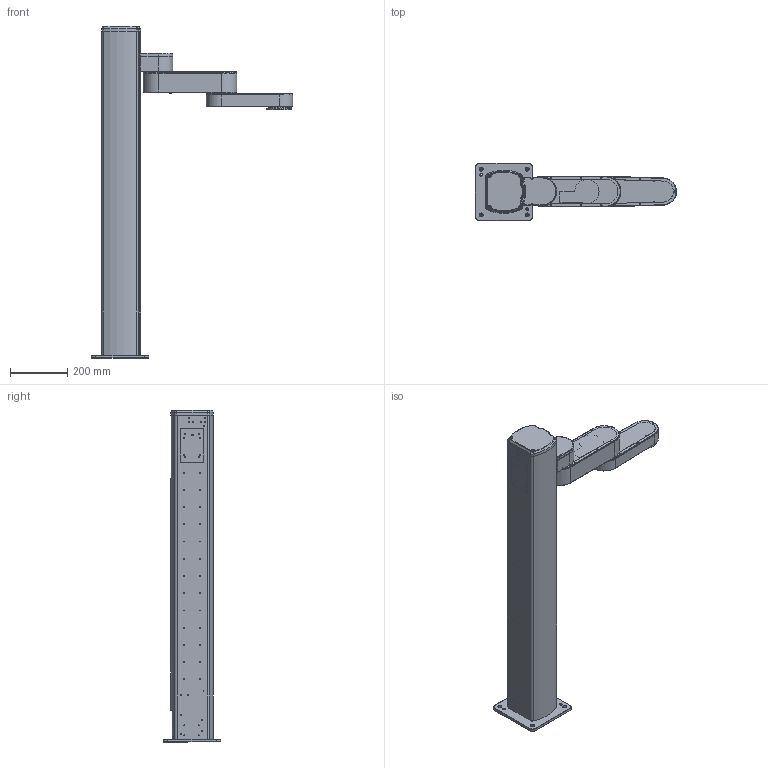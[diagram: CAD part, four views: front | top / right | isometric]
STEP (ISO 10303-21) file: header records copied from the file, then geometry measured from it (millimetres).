
FILE_DESCRIPTION (( 'STEP AP214' ), '1' );
FILE_NAME ('×°ÅäÌå9.STEP', '2021-11-25T02:12:44', ( '' ), ( '' ), 'SwSTEP 2.0', 'SolidWorks 2018', '' );
FILE_SCHEMA (( 'AUTOMOTIVE_DESIGN' ));
Length unit declared in the file: millimetre
Products named in the file (3): 蚾饜极9; 1; Z-Arm 9042C0 V1.1
Assembly tree (2 placements, depth 2):
  蚾饜极9
    Z-Arm 9042C0 V1.1
    1
Bounding box: 700.5 x 200 x 1156 mm (x, y, z)
Volume: 8561195.2 mm3; surface area: 1810789.8 mm2
Topology: 22 solids, 22 shells, 1632 faces, 4331 edges, 2769 vertices
Faces by surface type: cylinder 798, plane 492, cone 245, torus 51, bspline 34, sphere 12
Entity records: 77454 total; most frequent: CARTESIAN_POINT 18972, ORIENTED_EDGE 8534, DIRECTION 8045, EDGE_CURVE 4267, AXIS2_PLACEMENT_3D 3044, VERTEX_POINT 2769, EDGE_LOOP 2016, LINE 1957
